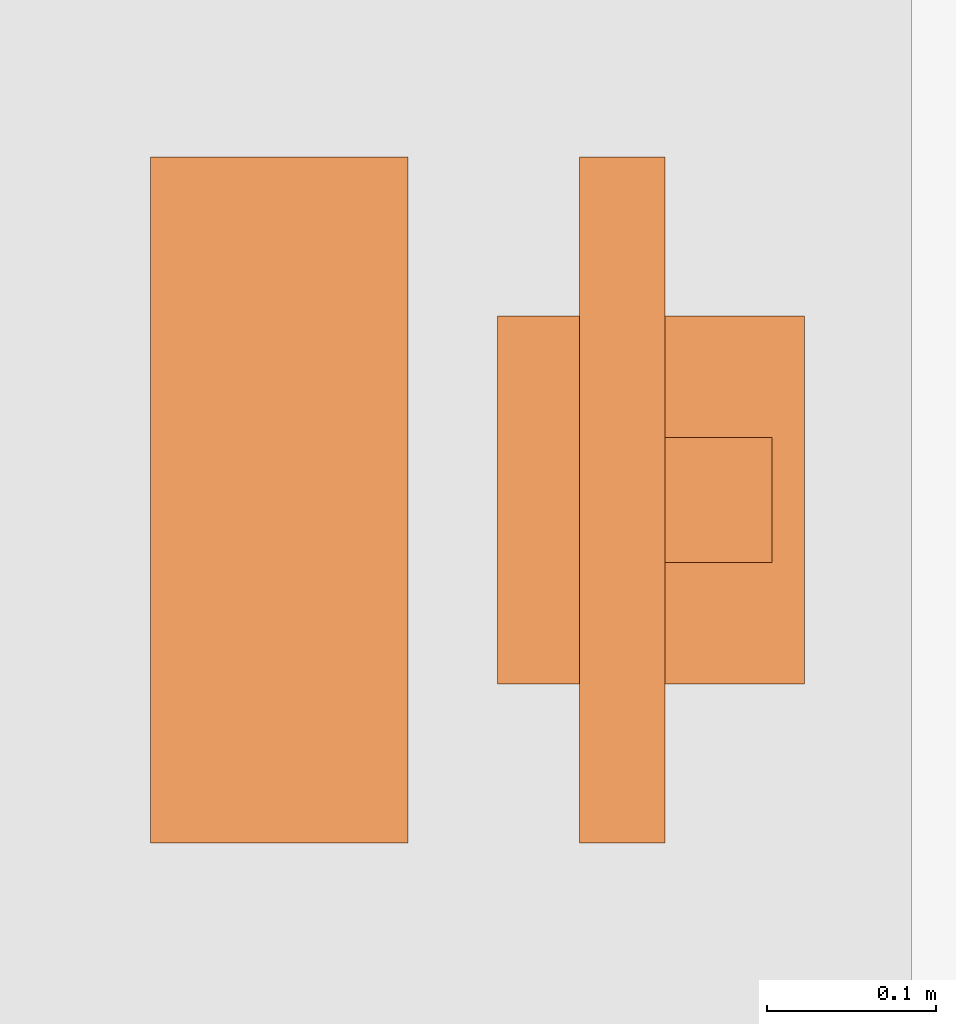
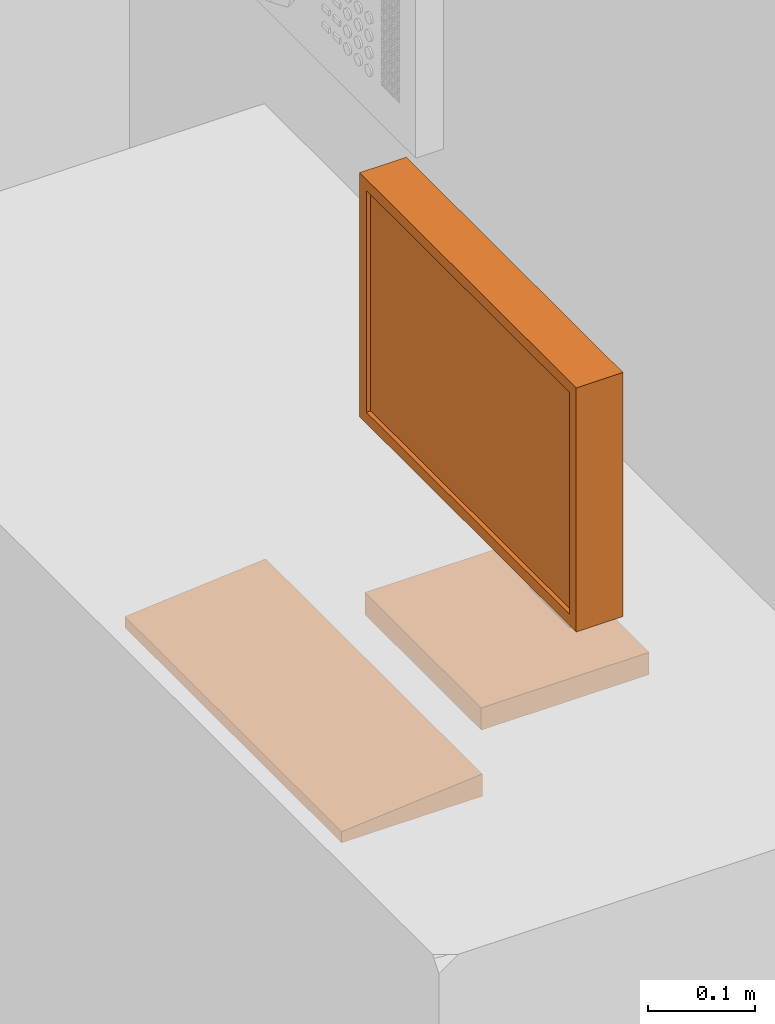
# One storey, part 13 of 14: 1 proxy.
"""IFC2X3 building model written with IfcOpenShell, lengths in feet."""

from ifc_helpers import new_model, entity, si_unit, converted_unit, derived_unit, direction, frame, origin, place, context, subcontext, project, spatial, faceted_brep, source, transform, mapped, type_object, type_shapes, element, save


model = new_model("IFC2X3")

# Units and contexts
model_context = context("Model", 3, precision=0.0001, world=origin(), true_north=direction((6.12303176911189e-17, 1.0)))
body_context = subcontext(model_context, "Body", "Model", "MODEL_VIEW")
ifc_project = project(units=[converted_unit("LENGTHUNIT", "FOOT", entity("IfcRatioMeasure", 0.3048), si_unit("LENGTHUNIT", "METRE"), dimensions=[1, 0, 0, 0, 0, 0, 0]), converted_unit("AREAUNIT", "SQUARE FOOT", entity("IfcRatioMeasure", 0.09290304), si_unit("AREAUNIT", "SQUARE_METRE"), dimensions=[2, 0, 0, 0, 0, 0, 0]), converted_unit("VOLUMEUNIT", "CUBIC FOOT", entity("IfcRatioMeasure", 0.028316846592), si_unit("VOLUMEUNIT", "CUBIC_METRE"), dimensions=[3, 0, 0, 0, 0, 0, 0]), converted_unit("PLANEANGLEUNIT", "DEGREE", entity("IfcRatioMeasure", 0.0174532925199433), si_unit("PLANEANGLEUNIT", "RADIAN"), dimensions=[0, 0, 0, 0, 0, 0, 0]), si_unit("MASSUNIT", "GRAM", prefix="KILO"), derived_unit("MASSDENSITYUNIT", [(si_unit("MASSUNIT", "GRAM", prefix="KILO"), 1), (si_unit("LENGTHUNIT", "METRE"), -3)]), si_unit("TIMEUNIT", "SECOND"), si_unit("FREQUENCYUNIT", "HERTZ"), si_unit("THERMODYNAMICTEMPERATUREUNIT", "DEGREE_CELSIUS"), derived_unit("THERMALTRANSMITTANCEUNIT", [(si_unit("MASSUNIT", "GRAM", prefix="KILO"), 1), (si_unit("THERMODYNAMICTEMPERATUREUNIT", "KELVIN"), -1), (si_unit("TIMEUNIT", "SECOND"), -3)]), derived_unit("VOLUMETRICFLOWRATEUNIT", [(si_unit("LENGTHUNIT", "METRE"), 3), (si_unit("TIMEUNIT", "SECOND"), -1)]), si_unit("ELECTRICCURRENTUNIT", "AMPERE"), si_unit("ELECTRICVOLTAGEUNIT", "VOLT"), si_unit("POWERUNIT", "WATT"), si_unit("FORCEUNIT", "NEWTON"), si_unit("ILLUMINANCEUNIT", "LUX"), si_unit("LUMINOUSFLUXUNIT", "LUMEN"), si_unit("LUMINOUSINTENSITYUNIT", "CANDELA"), derived_unit("USERDEFINED", [(si_unit("MASSUNIT", "GRAM", prefix="KILO"), -1), (si_unit("LENGTHUNIT", "METRE"), -2), (si_unit("TIMEUNIT", "SECOND"), 3), (si_unit("LUMINOUSFLUXUNIT", "LUMEN"), 1)]), derived_unit("LINEARVELOCITYUNIT", [(si_unit("LENGTHUNIT", "METRE"), 1), (si_unit("TIMEUNIT", "SECOND"), -1)]), si_unit("PRESSUREUNIT", "PASCAL"), derived_unit("USERDEFINED", [(si_unit("LENGTHUNIT", "METRE"), -2), (si_unit("MASSUNIT", "GRAM", prefix="KILO"), 1), (si_unit("TIMEUNIT", "SECOND"), -2)])], contexts=[model_context])

# Site, building, storey, space
site_placement = place(None, origin())
site = spatial("IfcSite", under=ifc_project, at=site_placement, Name="Default", CompositionType="ELEMENT")
building_placement = place(site_placement, origin())
building = spatial("IfcBuilding", under=site, at=building_placement, Name="OUTPATIENT / PACT CLINIC (Ch. 265)", CompositionType="ELEMENT")
storey_placement = place(building_placement, origin())
storey = spatial("IfcBuildingStorey", under=building, at=storey_placement, Name="DATUM", CompositionType="ELEMENT", Elevation=0.0)
space_placement = place(storey_placement, origin())
space = spatial("IfcSpace", under=storey, at=space_placement, Name="XDUS1", CompositionType="ELEMENT", InteriorOrExteriorSpace="INTERNAL")

# Proxy
building_element_proxy_type = type_object("IfcBuildingElementProxyType", Name="M1801 - Computer with Flat Panel Monitor", PredefinedType="NOTDEFINED")
shared_shape = source(origin(), body_context, "Body", "Brep", [
    faceted_brep([(0.666666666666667, -0.5625, 0.0), (0.666666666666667, -0.0624999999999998, 0.0), (0.666666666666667, -0.0624999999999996, 0.0833333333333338), (0.666666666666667, -0.5625, 0.0416666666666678), (-0.666666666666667, -0.5625, 0.0), (-0.666666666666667, -0.5625, 0.0416666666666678), (-0.666666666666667, -0.0624999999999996, 0.0833333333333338), (-0.666666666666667, -0.0624999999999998, 0.0)], [[[0, 1, 2, 3]], [[4, 5, 6, 7]], [[1, 0, 4, 7]], [[2, 1, 7, 6]], [[3, 2, 6, 5]], [[0, 3, 5, 4]]]),
    faceted_brep([(0.666666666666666, 0.437223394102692, 1.41666666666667), (-0.666666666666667, 0.437223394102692, 1.41666666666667), (-0.666666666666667, 0.271109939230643, 1.41666666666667), (0.666666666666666, 0.271109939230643, 1.41666666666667), (0.666666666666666, 0.437223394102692, 0.500000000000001), (0.666666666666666, 0.271109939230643, 0.500000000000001), (-0.666666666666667, 0.271109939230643, 0.500000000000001), (-0.666666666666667, 0.437223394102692, 0.500000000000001), (-0.625, 0.271109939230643, 1.375), (0.625, 0.271109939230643, 1.375), (0.625, 0.271109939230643, 0.541666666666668), (-0.625, 0.271109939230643, 0.541666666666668), (0.625, 0.286812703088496, 1.375), (-0.625, 0.286812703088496, 1.375), (0.625, 0.286812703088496, 0.541666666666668), (-0.625, 0.286812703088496, 0.541666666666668)], [[[0, 1, 2, 3]], [[4, 5, 6, 7]], [[1, 0, 4, 7]], [[2, 1, 7, 6]], [[3, 2, 6, 5], [8, 9, 10, 11]], [[0, 3, 5, 4]], [[12, 9, 8, 13]], [[14, 15, 11, 10]], [[12, 13, 15, 14]], [[13, 8, 11, 15]], [[9, 12, 14, 10]]]),
    faceted_brep([(0.358011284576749, 0.111770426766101, 0.0833333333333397), (0.358011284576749, 0.111770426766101, 0.0), (0.358011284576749, 0.708333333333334, 0.0), (0.358011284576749, 0.708333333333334, 0.0833333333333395), (-0.358011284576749, 0.708333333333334, 0.0833333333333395), (-0.358011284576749, 0.708333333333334, 0.0), (-0.358011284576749, 0.111770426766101, 0.0), (-0.358011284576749, 0.111770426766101, 0.0833333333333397), (0.12128795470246, 0.645556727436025, 0.104166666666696), (0.12128795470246, 0.645556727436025, 0.0833333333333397), (-0.12128795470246, 0.645556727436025, 0.0833333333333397), (-0.12128795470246, 0.645556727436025, 0.104166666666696), (0.12128795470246, 0.645556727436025, 0.958333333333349), (-0.12128795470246, 0.645556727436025, 0.958333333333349), (0.12128795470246, 0.437223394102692, 0.958333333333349), (-0.12128795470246, 0.437223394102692, 0.958333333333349), (0.12128795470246, 0.437223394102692, 0.791666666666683), (-0.12128795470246, 0.437223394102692, 0.791666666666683), (0.12128795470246, 0.562223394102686, 0.791666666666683), (-0.12128795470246, 0.562223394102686, 0.791666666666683), (0.12128795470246, 0.562223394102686, 0.0833333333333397), (-0.12128795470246, 0.562223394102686, 0.0833333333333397)], [[[0, 1, 2, 3]], [[4, 5, 6, 7]], [[8, 9, 10, 11]], [[12, 8, 11, 13]], [[14, 12, 13, 15]], [[16, 14, 15, 17]], [[18, 16, 17, 19]], [[20, 18, 19, 21]], [[0, 3, 4, 7], [9, 20, 21, 10]], [[1, 0, 7, 6]], [[2, 1, 6, 5]], [[3, 2, 5, 4]], [[20, 9, 8, 12, 14, 16, 18]], [[10, 21, 19, 17, 15, 13, 11]]]),
])
type_shapes(building_element_proxy_type, [shared_shape])
proxy_placement = place(space_placement, frame((343.484592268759, -848.271683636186, 3.41666666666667), z_axis=(0.0, 0.0, 1.0), x_axis=(0.0, -1.0, 0.0)))
element("IfcBuildingElementProxy", 1, at=proxy_placement, inside=space, type_object=building_element_proxy_type, Name="M1801 - Computer with Flat Panel Monitor:M1801 - Computer with Flat Panel Monitor", ObjectType="M1801 - Computer with Flat Panel Monitor", context=body_context, shape_type="MappedRepresentation", body=[
    mapped(shared_shape, transform((0.0, 0.0, 0.0), scale=1.0)),
])

save(model, "model.ifc")
